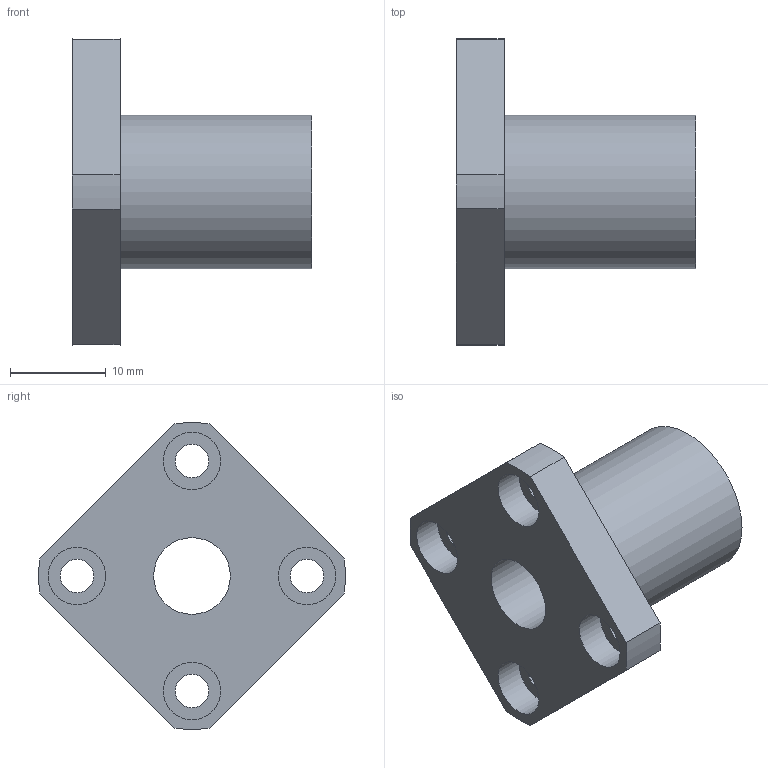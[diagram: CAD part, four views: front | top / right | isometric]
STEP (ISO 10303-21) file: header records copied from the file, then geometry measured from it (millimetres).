
FILE_DESCRIPTION( ( 'STEP AP203' ), '1' );
FILE_NAME( 'p:/temp/worker_6/temp/exporttempdir_3456_2049_hgUkW/format_0/LMEK8UU.stp', '2020-05-07T05:45:20', ( 'License CC BY-ND 4.0' ), ( 'CADENAS' ), ' ', 'PARTsolutions', ' ' );
FILE_SCHEMA( ( 'CONFIG_CONTROL_DESIGN' ) );
Length unit declared in the file: millimetre
Products named in the file (1): _LMEK8UU
Bounding box: 25 x 31.98 x 31.98 mm (x, y, z)
Volume: 5407.4 mm3; surface area: 3470.8 mm2
Topology: 1 solids, 1 shells, 25 faces, 55 edges, 37 vertices
Faces by surface type: cylinder 14, plane 11
Full cylindrical faces by diameter (mm): 3.5 x4, 6 x4, 8 x1, 16 x1
Entity records: 710 total; most frequent: DIRECTION 124, CARTESIAN_POINT 106, ORIENTED_EDGE 88, AXIS2_PLACEMENT_3D 54, EDGE_LOOP 50, EDGE_CURVE 44, VERTEX_POINT 36, FACE_OUTER_BOUND 35
